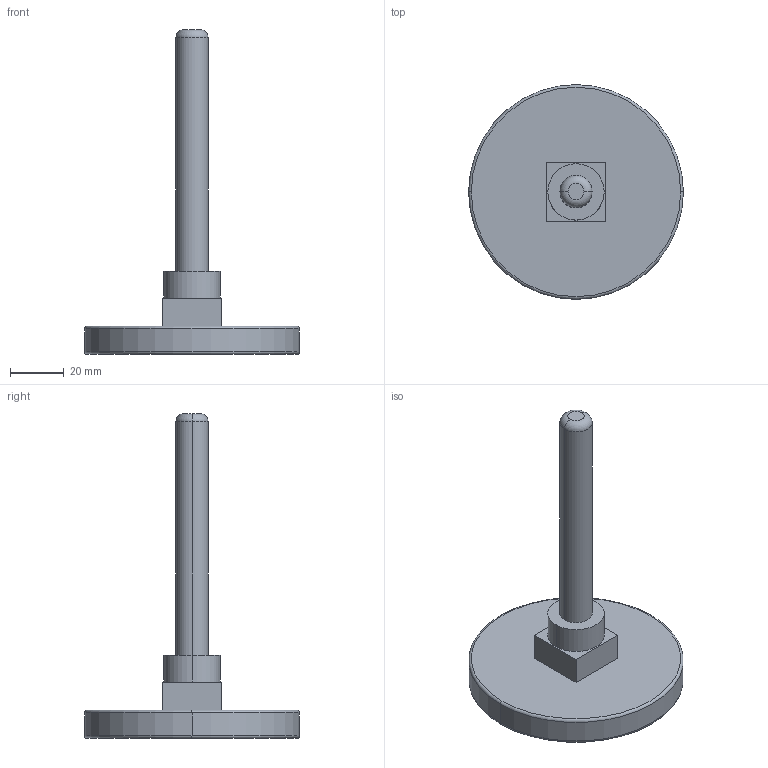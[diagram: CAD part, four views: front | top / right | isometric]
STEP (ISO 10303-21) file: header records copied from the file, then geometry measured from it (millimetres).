
FILE_DESCRIPTION (( 'STEP AP214' ), '1' );
FILE_NAME ('Termometr_bimetaliczny_x_0_3D_AFRISO.STEP', '2022-12-16T13:54:30', ( '' ), ( '' ), 'SwSTEP 2.0', 'SolidWorks 2022', '' );
FILE_SCHEMA (( 'AUTOMOTIVE_DESIGN' ));
Length unit declared in the file: millimetre
Products named in the file (1): Termometr_bimetaliczny_x_0_3D_AFRISO
Bounding box: 80 x 80 x 121 mm (x, y, z)
Volume: 71331.2 mm3; surface area: 17399.5 mm2
Topology: 1 solids, 1 shells, 21 faces, 42 edges, 26 vertices
Faces by surface type: plane 9, torus 6, cylinder 6
Entity records: 586 total; most frequent: DIRECTION 110, CARTESIAN_POINT 90, ORIENTED_EDGE 84, AXIS2_PLACEMENT_3D 46, EDGE_CURVE 42, VERTEX_POINT 26, CIRCLE 24, EDGE_LOOP 24
